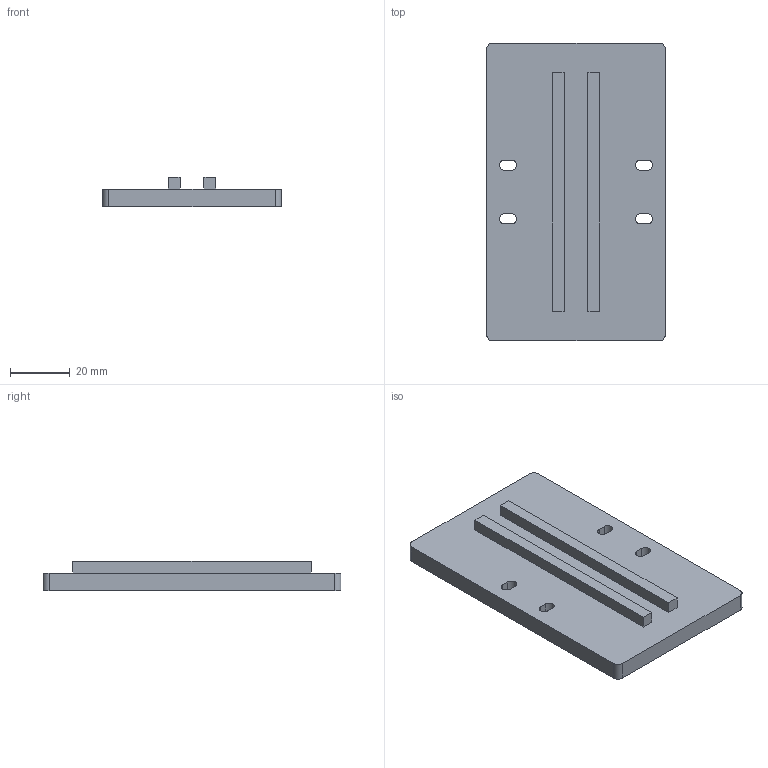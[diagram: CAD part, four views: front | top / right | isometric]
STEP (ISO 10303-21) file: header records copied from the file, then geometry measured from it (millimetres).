
FILE_DESCRIPTION(('Open CASCADE Model'),'2;1');
FILE_NAME('Open CASCADE Shape Model','2026-09-12T11:56:36',('Author'),( 'Open CASCADE'),'Open CASCADE STEP processor 7.9','Open CASCADE 7.9' ,'Unknown');
FILE_SCHEMA(('AUTOMOTIVE_DESIGN { 1 0 10303 214 1 1 1 1 }'));
Length unit declared in the file: millimetre
Products named in the file (2): =>[0:1:1:2]; V2_1_flat_sole_adjustable_axial_cheek_slots
Assembly tree (1 placements, depth 2):
  =>[0:1:1:2]
    V2_1_flat_sole_adjustable_axial_cheek_slots
Bounding box: 60 x 100 x 10 mm (x, y, z)
Volume: 37848.1 mm3; surface area: 15555.9 mm2
Topology: 1 solids, 1 shells, 56 faces, 144 edges, 96 vertices
Faces by surface type: plane 36, cylinder 20
Entity records: 3593 total; most frequent: CARTESIAN_POINT 714, DIRECTION 500, ORIENTED_EDGE 288, PCURVE 288, DEFINITIONAL_REPRESENTATION 288, LINE 272, VECTOR 272, EDGE_CURVE 144
